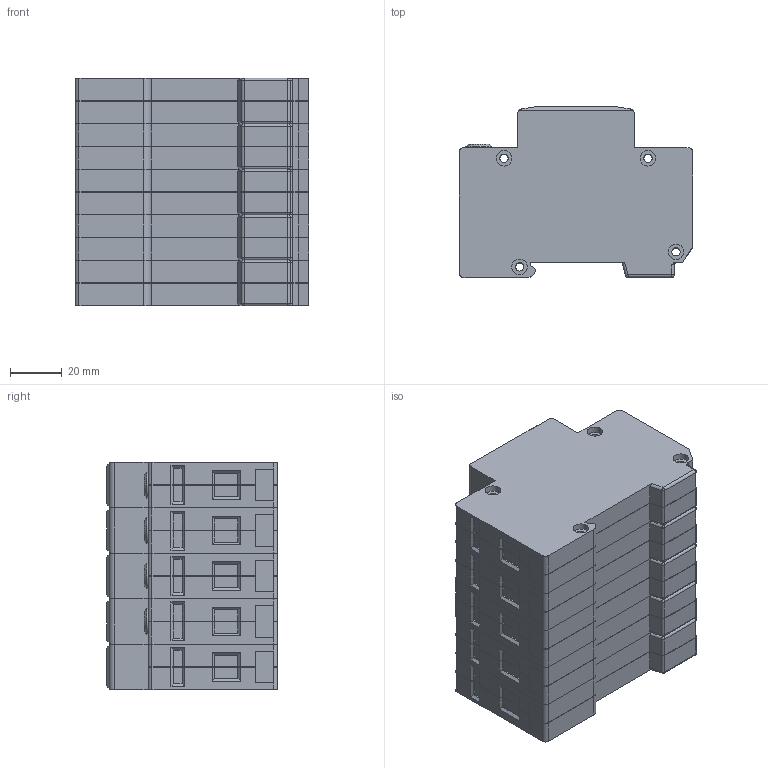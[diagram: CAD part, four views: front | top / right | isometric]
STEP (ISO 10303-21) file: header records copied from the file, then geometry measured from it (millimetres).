
FILE_DESCRIPTION(/* description */ (''),/* implementation_level */ '2;1');
FILE_NAME(/* name */ 'K:\PROJEKTY ROZPRACOVANÉ\MODELY DO KATALOGU\HSA, HLSA 24520, 10007\3D - STEP\H PV.stp',/* time_stamp */ '2021-06-10T13:54:58+02:00',/* author */ ('miko'),/* organization */ (''),/* preprocessor_version */ 'ST-DEVELOPER v18.1',/* originating_system */ 'Autodesk Inventor 2022',/* authorisation */ '');
FILE_SCHEMA (('AUTOMOTIVE_DESIGN { 1 0 10303 214 3 1 1 }'));
Length unit declared in the file: millimetre
Products named in the file (8): H PV; HLSA; HLSA_1; HLSA (Z); HLSA (Z)_1; HGDT (Z); HGDT (Z)_1; DIN 7985 (H) - M5x6-H
Assembly tree (12 placements, depth 3):
  H PV
    HLSA
      HLSA_1
      DIN 7985 (H) - M5x6-H  x2
    HLSA (Z)  x3
      HLSA (Z)_1
      DIN 7985 (H) - M5x6-H
    HGDT (Z)
      HGDT (Z)_1
      DIN 7985 (H) - M5x6-H
Bounding box: 90 x 65.8 x 87.5 mm (x, y, z)
Volume: 422657.9 mm3; surface area: 89344.2 mm2
Topology: 11 solids, 11 shells, 1369 faces, 3698 edges, 2406 vertices
Faces by surface type: plane 988, cylinder 233, cone 106, sphere 26, torus 16
Full cylindrical faces by diameter (mm): 3.2 x20, 4.6 x6, 5 x6, 6 x40, 10 x4
Entity records: 22724 total; most frequent: CARTESIAN_POINT 4028, ORIENTED_EDGE 3892, DIRECTION 3751, EDGE_CURVE 1946, LINE 1571, VECTOR 1571, VERTEX_POINT 1263, AXIS2_PLACEMENT_3D 1090
